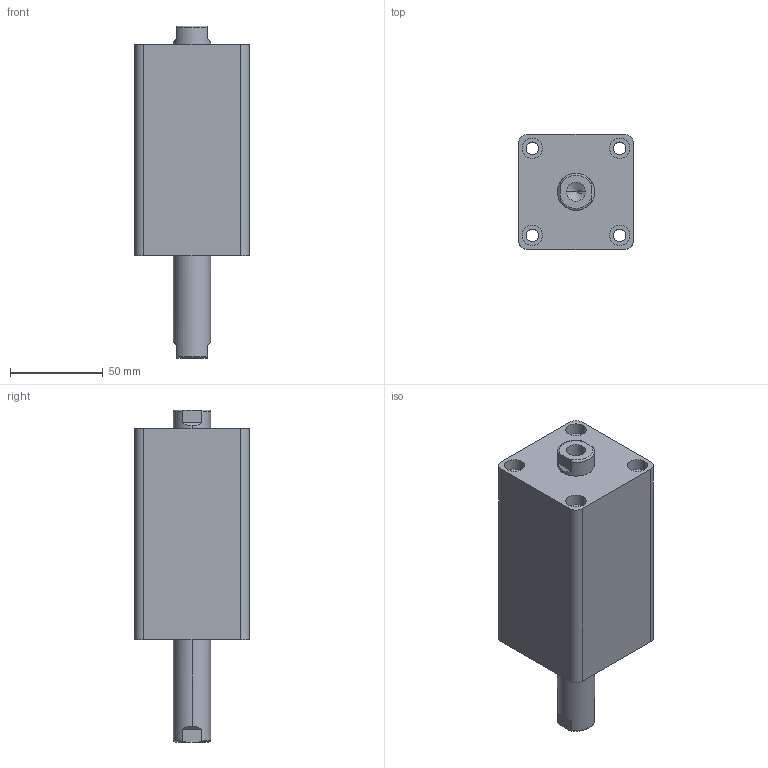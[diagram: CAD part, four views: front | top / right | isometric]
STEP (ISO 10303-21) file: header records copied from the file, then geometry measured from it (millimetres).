
FILE_DESCRIPTION (( 'STEP AP203' ), '1' );
FILE_NAME ('HTB-SW32-45N.STEP', '2019-10-07T08:53:17', ( '微软用户' ), ( '微软中国' ), 'SwSTEP 2.0', 'SolidWorks 2012', '' );
FILE_SCHEMA (( 'CONFIG_CONTROL_DESIGN' ));
Length unit declared in the file: millimetre
Products named in the file (3): HTB-SW32-45N; HTB-SW32-45N活塞杆; HTB-SW32-45掛极
Assembly tree (2 placements, depth 2):
  HTB-SW32-45N
    HTB-SW32-45掛极
    HTB-SW32-45N活塞杆
Bounding box: 62 x 62 x 179 mm (x, y, z)
Volume: 409366.2 mm3; surface area: 70053.7 mm2
Topology: 2 solids, 2 shells, 100 faces, 228 edges, 146 vertices
Faces by surface type: cylinder 48, plane 32, torus 12, cone 8
Entity records: 3237 total; most frequent: CARTESIAN_POINT 595, DIRECTION 542, ORIENTED_EDGE 448, AXIS2_PLACEMENT_3D 229, EDGE_CURVE 224, VERTEX_POINT 146, EDGE_LOOP 128, CIRCLE 124
